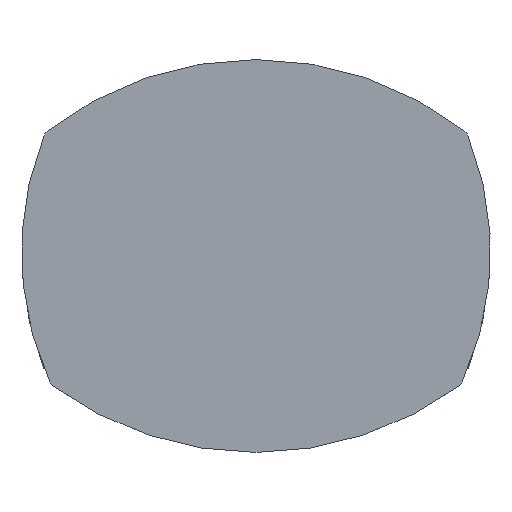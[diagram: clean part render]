
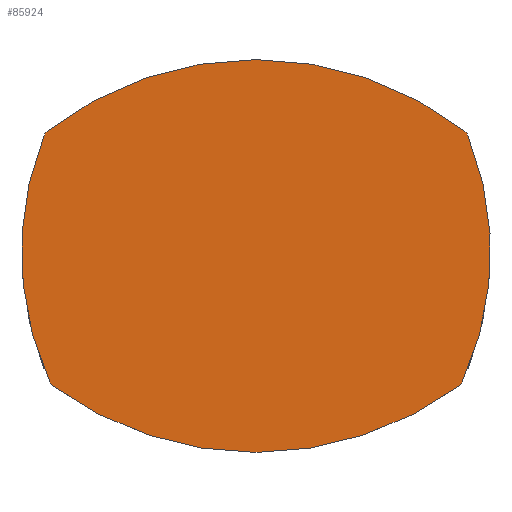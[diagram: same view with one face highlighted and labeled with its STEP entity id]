
A CAD part, top view. The second image highlights one B-rep face of the part: STEP entity #85924.
In plain terms, the highlighted planar face has unit normal (0, 0, 1).
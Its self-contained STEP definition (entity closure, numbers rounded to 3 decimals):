
#5340=CIRCLE('',#93770,10.);
#5341=CIRCLE('',#93772,355.);
#5342=CIRCLE('',#93773,10.);
#5343=CIRCLE('',#93774,323.);
#5344=CIRCLE('',#93775,10.);
#5345=CIRCLE('',#93776,352.);
#5346=CIRCLE('',#93777,10.);
#5347=CIRCLE('',#93778,323.);
#10145=FACE_OUTER_BOUND('',#14944,.T.);
#14944=EDGE_LOOP('',(#74254,#74255,#74256,#74257,#74258,#74259,#74260,#74261));
#38824=VERTEX_POINT('',#144228);
#38825=VERTEX_POINT('',#144230);
#38826=VERTEX_POINT('',#144234);
#38827=VERTEX_POINT('',#144236);
#38828=VERTEX_POINT('',#144238);
#38829=VERTEX_POINT('',#144240);
#38830=VERTEX_POINT('',#144242);
#38831=VERTEX_POINT('',#144244);
#50636=EDGE_CURVE('',#38824,#38825,#5340,.T.);
#50638=EDGE_CURVE('',#38826,#38824,#5341,.T.);
#50639=EDGE_CURVE('',#38827,#38826,#5342,.T.);
#50640=EDGE_CURVE('',#38828,#38827,#5343,.T.);
#50641=EDGE_CURVE('',#38829,#38828,#5344,.T.);
#50642=EDGE_CURVE('',#38830,#38829,#5345,.T.);
#50643=EDGE_CURVE('',#38831,#38830,#5346,.T.);
#50644=EDGE_CURVE('',#38825,#38831,#5347,.T.);
#74254=ORIENTED_EDGE('',*,*,#50636,.F.);
#74255=ORIENTED_EDGE('',*,*,#50638,.F.);
#74256=ORIENTED_EDGE('',*,*,#50639,.F.);
#74257=ORIENTED_EDGE('',*,*,#50640,.F.);
#74258=ORIENTED_EDGE('',*,*,#50641,.F.);
#74259=ORIENTED_EDGE('',*,*,#50642,.F.);
#74260=ORIENTED_EDGE('',*,*,#50643,.F.);
#74261=ORIENTED_EDGE('',*,*,#50644,.F.);
#77072=PLANE('',#93771);
#85924=ADVANCED_FACE('',(#10145),#77072,.F.);
#93770=AXIS2_PLACEMENT_3D('',#144231,#117447,#117448);
#93771=AXIS2_PLACEMENT_3D('',#144233,#117450,#117451);
#93772=AXIS2_PLACEMENT_3D('',#144235,#117452,#117453);
#93773=AXIS2_PLACEMENT_3D('',#144237,#117454,#117455);
#93774=AXIS2_PLACEMENT_3D('',#144239,#117456,#117457);
#93775=AXIS2_PLACEMENT_3D('',#144241,#117458,#117459);
#93776=AXIS2_PLACEMENT_3D('',#144243,#117460,#117461);
#93777=AXIS2_PLACEMENT_3D('',#144245,#117462,#117463);
#93778=AXIS2_PLACEMENT_3D('',#144246,#117464,#117465);
#117447=DIRECTION('center_axis',(0.,0.,
-1.));
#117448=DIRECTION('ref_axis',(-0.776,-0.631,0.));
#117450=DIRECTION('center_axis',(0.,0.,
-1.));
#117451=DIRECTION('ref_axis',(1.,0.,0.));
#117452=DIRECTION('center_axis',(0.,0.,
-1.));
#117453=DIRECTION('ref_axis',(0.599,-0.801,0.));
#117454=DIRECTION('center_axis',(0.,0.,
-1.));
#117455=DIRECTION('ref_axis',(0.776,-0.631,0.));
#117456=DIRECTION('center_axis',(0.,0.,
-1.));
#117457=DIRECTION('ref_axis',(0.924,0.382,0.));
#117458=DIRECTION('center_axis',(0.,0.,
-1.));
#117459=DIRECTION('ref_axis',(0.798,0.602,0.));
#117460=DIRECTION('center_axis',(0.,0.,
-1.));
#117461=DIRECTION('ref_axis',(-0.621,0.784,0.));
#117462=DIRECTION('center_axis',(0.,0.,
-1.));
#117463=DIRECTION('ref_axis',(-0.798,0.602,0.));
#117464=DIRECTION('center_axis',(0.,0.,
-1.));
#117465=DIRECTION('ref_axis',(-0.906,-0.424,0.));
#144228=CARTESIAN_POINT('',(-210.525,-285.84,569.));
#144230=CARTESIAN_POINT('',(-213.687,-281.95,569.));
#144231=CARTESIAN_POINT('Origin',(-204.595,-277.788,569.));
#144233=CARTESIAN_POINT('Origin',(0.,-151.453,
569.));
#144234=CARTESIAN_POINT('',(210.525,-285.84,569.));
#144235=CARTESIAN_POINT('Origin',(0.,0.,
569.));
#144236=CARTESIAN_POINT('',(213.687,-281.95,569.));
#144237=CARTESIAN_POINT('Origin',(204.595,-277.788,569.));
#144238=CARTESIAN_POINT('',(219.469,-26.473,569.));
#144239=CARTESIAN_POINT('Origin',(-80.,-147.5,569.));
#144240=CARTESIAN_POINT('',(216.343,-22.332,569.));
#144241=CARTESIAN_POINT('Origin',(210.197,-30.22,569.));
#144242=CARTESIAN_POINT('',(-216.343,-22.332,569.));
#144243=CARTESIAN_POINT('Origin',(0.,-300.,569.));
#144244=CARTESIAN_POINT('',(-219.469,-26.473,569.));
#144245=CARTESIAN_POINT('Origin',(-210.197,-30.22,569.));
#144246=CARTESIAN_POINT('Origin',(80.,-147.5,569.));
